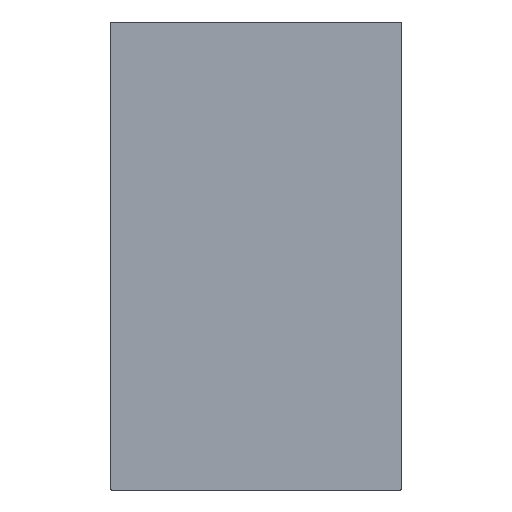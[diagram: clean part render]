
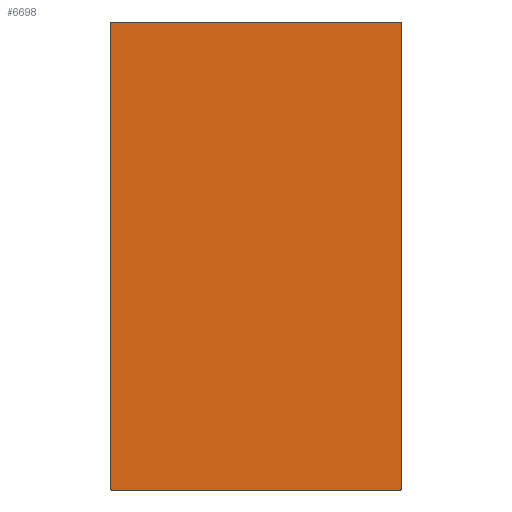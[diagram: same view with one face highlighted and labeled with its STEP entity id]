
A CAD part, front view. The second image highlights one B-rep face of the part: STEP entity #6698.
In plain terms, the highlighted planar face has unit normal (0, -1, 0).
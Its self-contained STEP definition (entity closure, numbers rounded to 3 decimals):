
#92=PLANE('',#7695);
#606=LINE('',#11951,#1058);
#610=LINE('',#11960,#1062);
#615=LINE('',#12049,#1067);
#616=LINE('',#12051,#1068);
#1058=VECTOR('',#9917,10.);
#1062=VECTOR('',#9927,10.);
#1067=VECTOR('',#10092,10.);
#1068=VECTOR('',#10095,10.);
#1742=FACE_OUTER_BOUND('',#2192,.T.);
#2192=EDGE_LOOP('',(#6165,#6166,#6167,#6168,#6169,#6170,#6171,#6172));
#2713=CIRCLE('',#7612,2.);
#2714=CIRCLE('',#7615,2.);
#2715=CIRCLE('',#7690,2.);
#2716=CIRCLE('',#7692,2.);
#3237=VERTEX_POINT('',#11948);
#3238=VERTEX_POINT('',#11950);
#3239=VERTEX_POINT('',#11954);
#3240=VERTEX_POINT('',#11958);
#3241=VERTEX_POINT('',#11962);
#3242=VERTEX_POINT('',#12039);
#3243=VERTEX_POINT('',#12043);
#3244=VERTEX_POINT('',#12045);
#4206=EDGE_CURVE('',#3238,#3237,#606,.T.);
#4209=EDGE_CURVE('',#3239,#3237,#2713,.T.);
#4211=EDGE_CURVE('',#3239,#3240,#610,.T.);
#4213=EDGE_CURVE('',#3241,#3240,#2714,.T.);
#4214=EDGE_CURVE('',#3238,#3242,#2715,.T.);
#4217=EDGE_CURVE('',#3243,#3244,#2716,.T.);
#4219=EDGE_CURVE('',#3241,#3244,#615,.T.);
#4220=EDGE_CURVE('',#3243,#3242,#616,.T.);
#6165=ORIENTED_EDGE('',*,*,#4209,.F.);
#6166=ORIENTED_EDGE('',*,*,#4211,.T.);
#6167=ORIENTED_EDGE('',*,*,#4213,.F.);
#6168=ORIENTED_EDGE('',*,*,#4219,.T.);
#6169=ORIENTED_EDGE('',*,*,#4217,.F.);
#6170=ORIENTED_EDGE('',*,*,#4220,.T.);
#6171=ORIENTED_EDGE('',*,*,#4214,.F.);
#6172=ORIENTED_EDGE('',*,*,#4206,.T.);
#6698=ADVANCED_FACE('',(#1742),#92,.T.);
#7612=AXIS2_PLACEMENT_3D('',#11956,#9922,#9923);
#7615=AXIS2_PLACEMENT_3D('',#11964,#9931,#9932);
#7690=AXIS2_PLACEMENT_3D('',#12040,#10081,#10082);
#7692=AXIS2_PLACEMENT_3D('',#12046,#10087,#10088);
#7695=AXIS2_PLACEMENT_3D('',#12052,#10096,#10097);
#9917=DIRECTION('',(1.,0.,0.));
#9922=DIRECTION('center_axis',(0.,1.,0.));
#9923=DIRECTION('ref_axis',(0.707,0.,-0.707));
#9927=DIRECTION('',(0.,0.,1.));
#9931=DIRECTION('center_axis',(0.,1.,0.));
#9932=DIRECTION('ref_axis',(0.707,0.,0.707));
#10081=DIRECTION('center_axis',(0.,1.,0.));
#10082=DIRECTION('ref_axis',(-0.707,0.,-0.707));
#10087=DIRECTION('center_axis',(0.,1.,0.));
#10088=DIRECTION('ref_axis',(-0.707,0.,0.707));
#10092=DIRECTION('',(-1.,0.,0.));
#10095=DIRECTION('',(0.,0.,-1.));
#10096=DIRECTION('center_axis',(0.,-1.,0.));
#10097=DIRECTION('ref_axis',(0.,0.,-1.));
#11948=CARTESIAN_POINT('',(221.5,-9.,-359.));
#11950=CARTESIAN_POINT('',(-221.5,-9.,-359.));
#11951=CARTESIAN_POINT('',(223.5,-9.,-359.));
#11954=CARTESIAN_POINT('',(223.5,-9.,-357.));
#11956=CARTESIAN_POINT('Origin',(221.5,-9.,-357.));
#11958=CARTESIAN_POINT('',(223.5,-9.,357.));
#11960=CARTESIAN_POINT('',(223.5,-9.,359.));
#11962=CARTESIAN_POINT('',(221.5,-9.,359.));
#11964=CARTESIAN_POINT('Origin',(221.5,-9.,357.));
#12039=CARTESIAN_POINT('',(-223.5,-9.,-357.));
#12040=CARTESIAN_POINT('Origin',(-221.5,-9.,-357.));
#12043=CARTESIAN_POINT('',(-223.5,-9.,357.));
#12045=CARTESIAN_POINT('',(-221.5,-9.,359.));
#12046=CARTESIAN_POINT('Origin',(-221.5,-9.,357.));
#12049=CARTESIAN_POINT('',(-223.5,-9.,359.));
#12051=CARTESIAN_POINT('',(-223.5,-9.,-359.));
#12052=CARTESIAN_POINT('Origin',(0.,-9.,0.));
